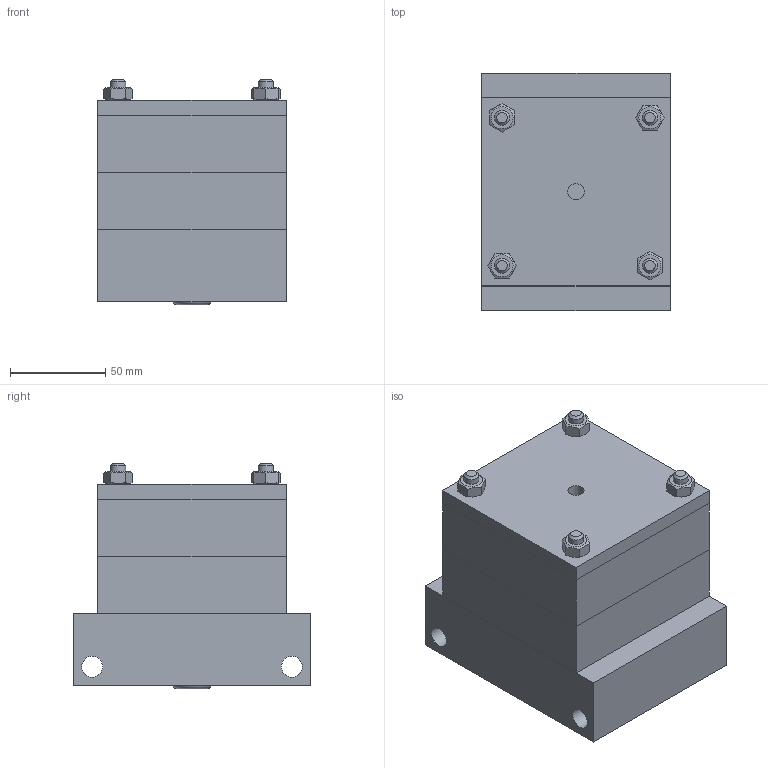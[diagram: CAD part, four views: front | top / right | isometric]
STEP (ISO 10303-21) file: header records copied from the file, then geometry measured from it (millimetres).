
FILE_DESCRIPTION((''),'2;1');
FILE_NAME('C:\VaultWork\Zeichnungen\Maßblätter\Multizylinder\M 90\M90-12\Maßblatt Multizylinder M90-3-12.stp','2016-04-28T09:59:03',('Hinzmann'),(''),'Autodesk Inventor 2012','Autodesk Inventor 2012','');
FILE_SCHEMA(('AUTOMOTIVE_DESIGN { 1 0 10303 214 1 1 1 1 }'));
Length unit declared in the file: millimetre
Products named in the file (7): Maßblatt Multizylinder M90-3-12; Bodenzylinder M90x12; Zylinder M90x12; Block Z02364-4-3 Enddeckel M90; Block Z02600-4-4 Kolbenstange für Grundzelle; Gewindestange M8; DIN EN 24032 M8
Assembly tree (13 placements, depth 2):
  Maßblatt Multizylinder M90-3-12
    Bodenzylinder M90x12
    Zylinder M90x12  x2
    Block Z02364-4-3 Enddeckel M90
    Block Z02600-4-4 Kolbenstange für Grundzelle
    Gewindestange M8  x4
    DIN EN 24032 M8  x4
Bounding box: 99 x 125 x 118.5 mm (x, y, z)
Volume: 1117211.9 mm3; surface area: 141022.1 mm2
Topology: 13 solids, 13 shells, 117 faces, 256 edges, 166 vertices
Faces by surface type: plane 67, cone 26, cylinder 23, torus 1
Full cylindrical faces by diameter (mm): 4 x1, 6.647 x9, 8 x4, 8.566 x2, 9 x4, 11 x2, 15 x1
Entity records: 1717 total; most frequent: DIRECTION 284, CARTESIAN_POINT 276, ORIENTED_EDGE 190, AXIS2_PLACEMENT_3D 121, EDGE_LOOP 108, EDGE_CURVE 95, VERTEX_POINT 77, FACE_OUTER_BOUND 60
